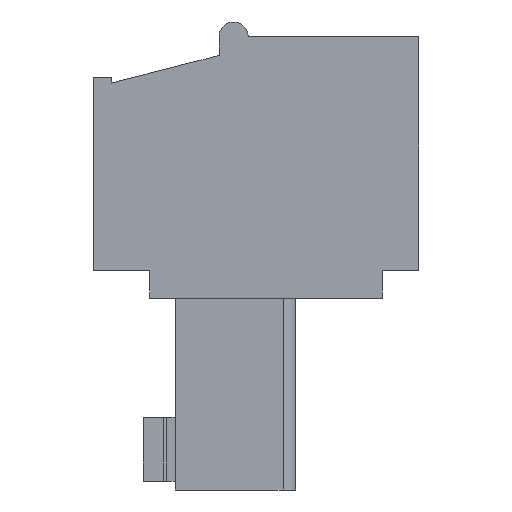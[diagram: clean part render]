
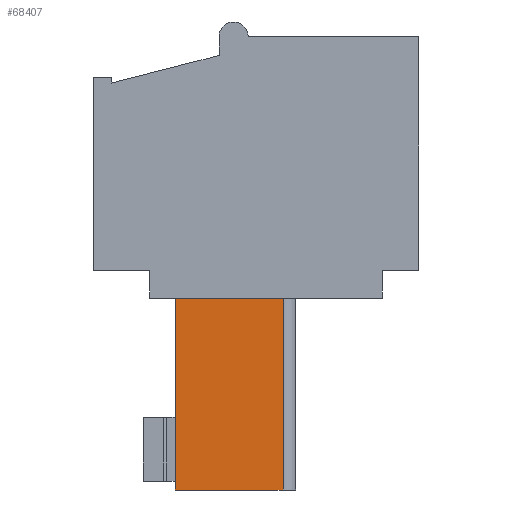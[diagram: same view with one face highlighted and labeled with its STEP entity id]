
A CAD part, left-side view. The second image highlights one B-rep face of the part: STEP entity #68407.
In plain terms, the highlighted planar face has unit normal (-1, 0, 0).
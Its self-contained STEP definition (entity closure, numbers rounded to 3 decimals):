
#329 = PLANE('',#330);
#330 = AXIS2_PLACEMENT_3D('',#331,#332,#333);
#331 = CARTESIAN_POINT('',(0.,-6.37,-9.));
#332 = DIRECTION('',(0.,0.,-1.));
#333 = DIRECTION('',(0.,1.,0.));
#47129 = VERTEX_POINT('',#47130);
#47130 = CARTESIAN_POINT('',(-49.44,-1.7,-9.));
#47145 = CYLINDRICAL_SURFACE('',#47146,0.44);
#47146 = AXIS2_PLACEMENT_3D('',#47147,#47148,#47149);
#47147 = CARTESIAN_POINT('',(-49.,-1.7,-9.));
#47148 = DIRECTION('',(0.,0.,-1.));
#47149 = DIRECTION('',(1.,0.,0.));
#47157 = EDGE_CURVE('',#47129,#47158,#47160,.T.);
#47158 = VERTEX_POINT('',#47159);
#47159 = CARTESIAN_POINT('',(-49.44,2.01,-9.));
#47160 = SURFACE_CURVE('',#47161,(#47165,#47172),.PCURVE_S1.);
#47161 = LINE('',#47162,#47163);
#47162 = CARTESIAN_POINT('',(-49.44,-1.7,-9.));
#47163 = VECTOR('',#47164,1.);
#47164 = DIRECTION('',(0.,1.,0.));
#47165 = PCURVE('',#329,#47166);
#47166 = DEFINITIONAL_REPRESENTATION('',(#47167),#47171);
#47167 = LINE('',#47168,#47169);
#47168 = CARTESIAN_POINT('',(4.67,-49.44));
#47169 = VECTOR('',#47170,1.);
#47170 = DIRECTION('',(1.,0.));
#47171 = ( GEOMETRIC_REPRESENTATION_CONTEXT(2) 
PARAMETRIC_REPRESENTATION_CONTEXT() REPRESENTATION_CONTEXT('2D SPACE',''
  ) );
#47172 = PCURVE('',#47173,#47178);
#47173 = PLANE('',#47174);
#47174 = AXIS2_PLACEMENT_3D('',#47175,#47176,#47177);
#47175 = CARTESIAN_POINT('',(-49.44,-1.7,-9.));
#47176 = DIRECTION('',(-1.,0.,0.));
#47177 = DIRECTION('',(0.,1.,0.));
#47178 = DEFINITIONAL_REPRESENTATION('',(#47179),#47183);
#47179 = LINE('',#47180,#47181);
#47180 = CARTESIAN_POINT('',(0.,0.));
#47181 = VECTOR('',#47182,1.);
#47182 = DIRECTION('',(1.,0.));
#47183 = ( GEOMETRIC_REPRESENTATION_CONTEXT(2) 
PARAMETRIC_REPRESENTATION_CONTEXT() REPRESENTATION_CONTEXT('2D SPACE',''
  ) );
#47199 = PLANE('',#47200);
#47200 = AXIS2_PLACEMENT_3D('',#47201,#47202,#47203);
#47201 = CARTESIAN_POINT('',(-49.44,2.01,-9.));
#47202 = DIRECTION('',(0.,1.,0.));
#47203 = DIRECTION('',(1.,0.,0.));
#67804 = PLANE('',#67805);
#67805 = AXIS2_PLACEMENT_3D('',#67806,#67807,#67808);
#67806 = CARTESIAN_POINT('',(-48.02,0.,-15.6));
#67807 = DIRECTION('',(0.,0.,-1.));
#67808 = DIRECTION('',(1.,0.,0.));
#67872 = VERTEX_POINT('',#67873);
#67873 = CARTESIAN_POINT('',(-49.44,-1.7,-15.6));
#67924 = VERTEX_POINT('',#67925);
#67925 = CARTESIAN_POINT('',(-49.44,2.01,-15.6));
#67946 = EDGE_CURVE('',#67924,#67872,#67947,.T.);
#67947 = SURFACE_CURVE('',#67948,(#67952,#67959),.PCURVE_S1.);
#67948 = LINE('',#67949,#67950);
#67949 = CARTESIAN_POINT('',(-49.44,2.01,-15.6));
#67950 = VECTOR('',#67951,1.);
#67951 = DIRECTION('',(0.,-1.,0.));
#67952 = PCURVE('',#67804,#67953);
#67953 = DEFINITIONAL_REPRESENTATION('',(#67954),#67958);
#67954 = LINE('',#67955,#67956);
#67955 = CARTESIAN_POINT('',(-1.42,-2.01));
#67956 = VECTOR('',#67957,1.);
#67957 = DIRECTION('',(0.,1.));
#67958 = ( GEOMETRIC_REPRESENTATION_CONTEXT(2) 
PARAMETRIC_REPRESENTATION_CONTEXT() REPRESENTATION_CONTEXT('2D SPACE',''
  ) );
#67959 = PCURVE('',#47173,#67960);
#67960 = DEFINITIONAL_REPRESENTATION('',(#67961),#67965);
#67961 = LINE('',#67962,#67963);
#67962 = CARTESIAN_POINT('',(3.71,6.6));
#67963 = VECTOR('',#67964,1.);
#67964 = DIRECTION('',(-1.,0.));
#67965 = ( GEOMETRIC_REPRESENTATION_CONTEXT(2) 
PARAMETRIC_REPRESENTATION_CONTEXT() REPRESENTATION_CONTEXT('2D SPACE',''
  ) );
#68387 = EDGE_CURVE('',#47129,#67872,#68388,.T.);
#68388 = SURFACE_CURVE('',#68389,(#68393,#68400),.PCURVE_S1.);
#68389 = LINE('',#68390,#68391);
#68390 = CARTESIAN_POINT('',(-49.44,-1.7,-9.));
#68391 = VECTOR('',#68392,1.);
#68392 = DIRECTION('',(0.,0.,-1.));
#68393 = PCURVE('',#47145,#68394);
#68394 = DEFINITIONAL_REPRESENTATION('',(#68395),#68399);
#68395 = LINE('',#68396,#68397);
#68396 = CARTESIAN_POINT('',(3.142,0.));
#68397 = VECTOR('',#68398,1.);
#68398 = DIRECTION('',(0.,1.));
#68399 = ( GEOMETRIC_REPRESENTATION_CONTEXT(2) 
PARAMETRIC_REPRESENTATION_CONTEXT() REPRESENTATION_CONTEXT('2D SPACE',''
  ) );
#68400 = PCURVE('',#47173,#68401);
#68401 = DEFINITIONAL_REPRESENTATION('',(#68402),#68406);
#68402 = LINE('',#68403,#68404);
#68403 = CARTESIAN_POINT('',(0.,0.));
#68404 = VECTOR('',#68405,1.);
#68405 = DIRECTION('',(0.,1.));
#68406 = ( GEOMETRIC_REPRESENTATION_CONTEXT(2) 
PARAMETRIC_REPRESENTATION_CONTEXT() REPRESENTATION_CONTEXT('2D SPACE',''
  ) );
#68407 = ADVANCED_FACE('',(#68408),#47173,.T.);
#68408 = FACE_BOUND('',#68409,.F.);
#68409 = EDGE_LOOP('',(#68410,#68411,#68412,#68433));
#68410 = ORIENTED_EDGE('',*,*,#68387,.T.);
#68411 = ORIENTED_EDGE('',*,*,#67946,.F.);
#68412 = ORIENTED_EDGE('',*,*,#68413,.T.);
#68413 = EDGE_CURVE('',#67924,#47158,#68414,.T.);
#68414 = SURFACE_CURVE('',#68415,(#68419,#68426),.PCURVE_S1.);
#68415 = LINE('',#68416,#68417);
#68416 = CARTESIAN_POINT('',(-49.44,2.01,-15.6));
#68417 = VECTOR('',#68418,1.);
#68418 = DIRECTION('',(0.,0.,1.));
#68419 = PCURVE('',#47173,#68420);
#68420 = DEFINITIONAL_REPRESENTATION('',(#68421),#68425);
#68421 = LINE('',#68422,#68423);
#68422 = CARTESIAN_POINT('',(3.71,6.6));
#68423 = VECTOR('',#68424,1.);
#68424 = DIRECTION('',(0.,-1.));
#68425 = ( GEOMETRIC_REPRESENTATION_CONTEXT(2) 
PARAMETRIC_REPRESENTATION_CONTEXT() REPRESENTATION_CONTEXT('2D SPACE',''
  ) );
#68426 = PCURVE('',#47199,#68427);
#68427 = DEFINITIONAL_REPRESENTATION('',(#68428),#68432);
#68428 = LINE('',#68429,#68430);
#68429 = CARTESIAN_POINT('',(0.,6.6));
#68430 = VECTOR('',#68431,1.);
#68431 = DIRECTION('',(0.,-1.));
#68432 = ( GEOMETRIC_REPRESENTATION_CONTEXT(2) 
PARAMETRIC_REPRESENTATION_CONTEXT() REPRESENTATION_CONTEXT('2D SPACE',''
  ) );
#68433 = ORIENTED_EDGE('',*,*,#47157,.F.);
